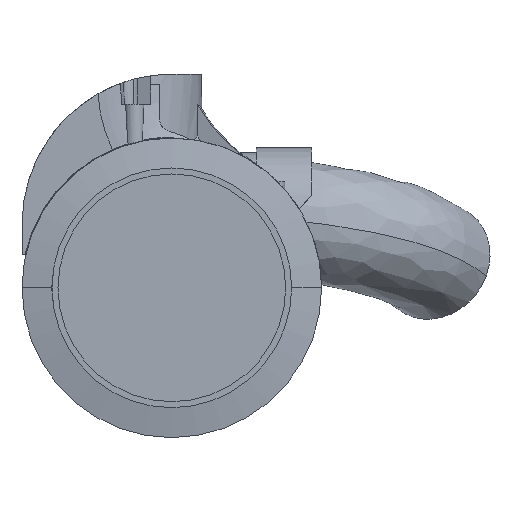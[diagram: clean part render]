
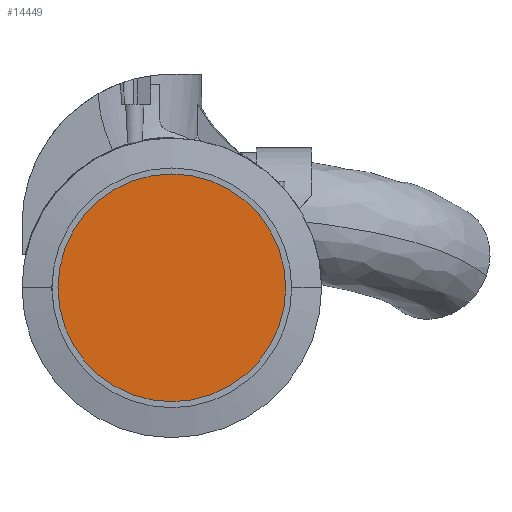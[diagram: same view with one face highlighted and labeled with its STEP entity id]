
A CAD part, left-side view. The second image highlights one B-rep face of the part: STEP entity #14449.
In plain terms, the highlighted planar face has unit normal (-1, 0, 0).
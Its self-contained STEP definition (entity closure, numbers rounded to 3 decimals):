
#414 = DIRECTION ( 'NONE',  ( -1., 0., 0. ) ) ;
#844 = AXIS2_PLACEMENT_3D ( 'NONE', #19769, #18135, #5848 ) ;
#1132 = DIRECTION ( 'NONE',  ( 0., -1., 0. ) ) ;
#2323 = CARTESIAN_POINT ( 'NONE',  ( 2077.5, 0., 2260. ) ) ;
#2462 = CIRCLE ( 'NONE', #5070, 76. ) ;
#5070 = AXIS2_PLACEMENT_3D ( 'NONE', #8157, #414, #1132 ) ;
#5644 = PLANE ( 'NONE',  #844 ) ;
#5848 = DIRECTION ( 'NONE',  ( 0., 0., 1. ) ) ;
#6074 = EDGE_CURVE ( 'NONE', #7791, #7398, #17176, .T. ) ;
#6160 = ORIENTED_EDGE ( 'NONE', *, *, #6074, .T. ) ;
#7017 = DIRECTION ( 'NONE',  ( 0., -1., 0. ) ) ;
#7368 = FACE_OUTER_BOUND ( 'NONE', #15870, .T. ) ;
#7398 = VERTEX_POINT ( 'NONE', #18930 ) ;
#7415 = EDGE_CURVE ( 'NONE', #7398, #7791, #2462, .T. ) ;
#7791 = VERTEX_POINT ( 'NONE', #19707 ) ;
#8157 = CARTESIAN_POINT ( 'NONE',  ( 2077.5, 0., 2260. ) ) ;
#14449 = ADVANCED_FACE ( 'NONE', ( #7368 ), #5644, .T. ) ;
#14827 = DIRECTION ( 'NONE',  ( -1., 0., 0. ) ) ;
#15550 = AXIS2_PLACEMENT_3D ( 'NONE', #2323, #14827, #7017 ) ;
#15870 = EDGE_LOOP ( 'NONE', ( #16954, #6160 ) ) ;
#16954 = ORIENTED_EDGE ( 'NONE', *, *, #7415, .T. ) ;
#17176 = CIRCLE ( 'NONE', #15550, 76. ) ;
#18135 = DIRECTION ( 'NONE',  ( -1., 0., 0. ) ) ;
#18930 = CARTESIAN_POINT ( 'NONE',  ( 2077.5, -76., 2260. ) ) ;
#19707 = CARTESIAN_POINT ( 'NONE',  ( 2077.5, 76., 2260. ) ) ;
#19769 = CARTESIAN_POINT ( 'NONE',  ( 2077.5, 35., 2260. ) ) ;
